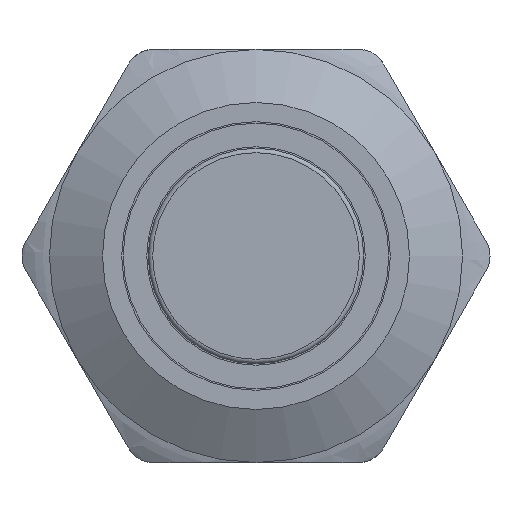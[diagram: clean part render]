
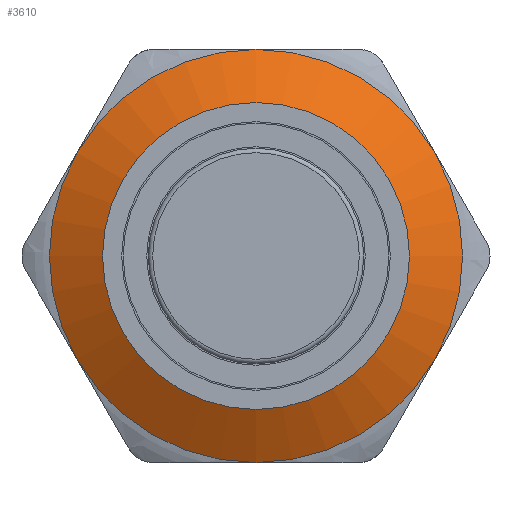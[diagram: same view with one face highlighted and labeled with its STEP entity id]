
A CAD part, front view. The second image highlights one B-rep face of the part: STEP entity #3610.
In plain terms, the highlighted conical face has half-angle 60.945 degrees and reference radius 6.1 mm.
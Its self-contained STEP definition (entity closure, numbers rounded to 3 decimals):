
#51=CONICAL_SURFACE('',#3986,6.1,1.064);
#539=LINE('',#10444,#830);
#830=VECTOR('',#4754,6.1);
#1117=FACE_OUTER_BOUND('',#1345,.T.);
#1345=EDGE_LOOP('',(#3105,#3106,#3107,#3108));
#1437=CIRCLE('',#3985,7.);
#1438=CIRCLE('',#3987,5.2);
#1718=VERTEX_POINT('',#10438);
#1719=VERTEX_POINT('',#10442);
#2194=EDGE_CURVE('',#1718,#1718,#1437,.T.);
#2195=EDGE_CURVE('',#1719,#1719,#1438,.T.);
#2196=EDGE_CURVE('',#1719,#1718,#539,.T.);
#3105=ORIENTED_EDGE('',*,*,#2195,.T.);
#3106=ORIENTED_EDGE('',*,*,#2196,.T.);
#3107=ORIENTED_EDGE('',*,*,#2194,.T.);
#3108=ORIENTED_EDGE('',*,*,#2196,.F.);
#3610=ADVANCED_FACE('',(#1117),#51,.T.);
#3985=AXIS2_PLACEMENT_3D('',#10440,#4748,#4749);
#3986=AXIS2_PLACEMENT_3D('',#10441,#4750,#4751);
#3987=AXIS2_PLACEMENT_3D('',#10443,#4752,#4753);
#4748=DIRECTION('center_axis',(0.,-1.,0.));
#4749=DIRECTION('ref_axis',(1.,0.,0.));
#4750=DIRECTION('center_axis',(0.,1.,0.));
#4751=DIRECTION('ref_axis',(1.,0.,0.));
#4752=DIRECTION('center_axis',(0.,1.,0.));
#4753=DIRECTION('ref_axis',(1.,0.,0.));
#4754=DIRECTION('',(-0.874,0.486,0.));
#10438=CARTESIAN_POINT('',(-7.,-12.466,0.538));
#10440=CARTESIAN_POINT('Origin',(0.,-12.466,0.538));
#10441=CARTESIAN_POINT('Origin',(0.,-12.966,0.538));
#10442=CARTESIAN_POINT('',(-5.2,-13.466,0.538));
#10443=CARTESIAN_POINT('Origin',(0.,-13.466,0.538));
#10444=CARTESIAN_POINT('',(-6.1,-12.966,0.538));
